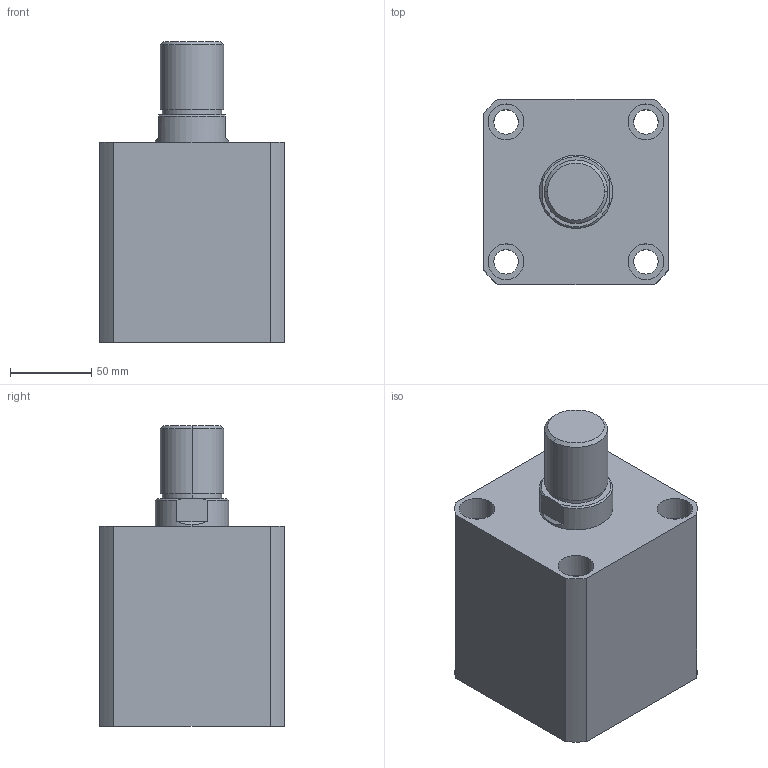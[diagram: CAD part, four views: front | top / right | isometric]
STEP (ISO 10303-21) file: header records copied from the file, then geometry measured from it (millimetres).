
FILE_DESCRIPTION (( 'STEP AP203' ), '1' );
FILE_NAME ('HTB-SDMB80-45W.STEP', '2019-10-09T06:05:04', ( '微软用户' ), ( '微软中国' ), 'SwSTEP 2.0', 'SolidWorks 2012', '' );
FILE_SCHEMA (( 'CONFIG_CONTROL_DESIGN' ));
Length unit declared in the file: millimetre
Products named in the file (3): HTB-SDMB80-45掛极; HTB-SDMB80-45W活塞杆; HTB-SDMB80-45W
Assembly tree (2 placements, depth 2):
  HTB-SDMB80-45W
    HTB-SDMB80-45掛极
    HTB-SDMB80-45W活塞杆
Bounding box: 114 x 114 x 185 mm (x, y, z)
Volume: 1391682 mm3; surface area: 171206.5 mm2
Topology: 2 solids, 2 shells, 141 faces, 337 edges, 222 vertices
Faces by surface type: plane 67, cylinder 48, bspline 16, torus 6, cone 4
Entity records: 5180 total; most frequent: CARTESIAN_POINT 1597, ORIENTED_EDGE 674, DIRECTION 669, EDGE_CURVE 337, AXIS2_PLACEMENT_3D 242, VERTEX_POINT 222, VECTOR 185, LINE 185
